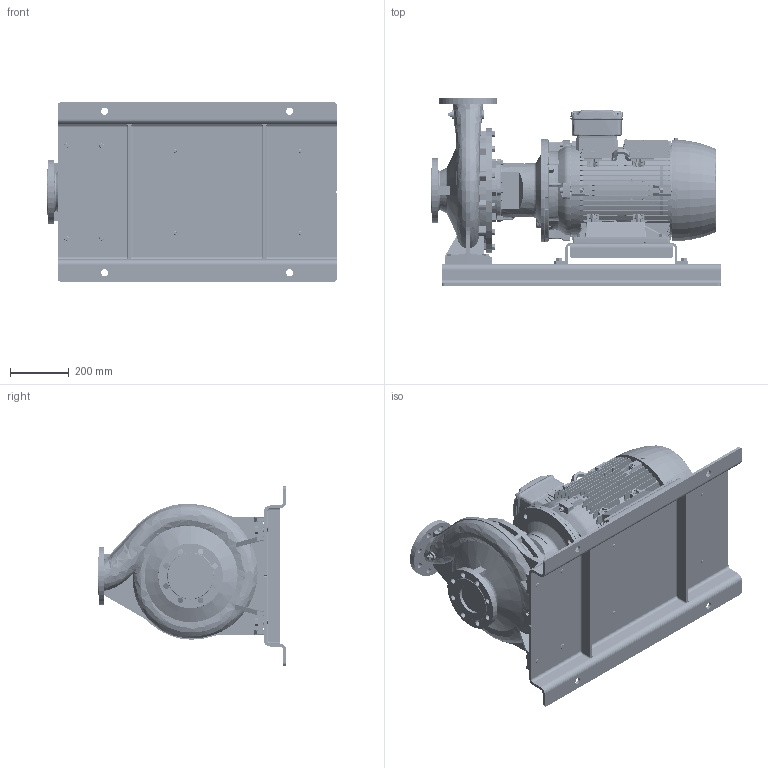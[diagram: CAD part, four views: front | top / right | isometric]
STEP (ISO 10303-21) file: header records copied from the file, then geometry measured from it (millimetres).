
FILE_DESCRIPTION (( 'STEP AP214' ), '1' );
FILE_NAME ('GSD4 80-315_18.5 & 22_(180ML)_W21_BP.STEP', '2026-05-08T06:39:13', ( '' ), ( '' ), 'SwSTEP 2.0', 'SolidWorks 2024', '' );
FILE_SCHEMA (( 'AUTOMOTIVE_DESIGN' ));
Length unit declared in the file: millimetre
Products named in the file (13): N7S3 GSDA-735 F1-1832948-00; GSD4 80-315_18.5 & 22_(180ML)_W21_BP; Parametric bolt_SFT-A297B; Parametric bolt and washer_SFT-A305B; Parametric bolt_SFT-A353B; 80-315-180M_L_ﾃﾞﾌｫﾙﾄ; CGS11-5263; Parametric Flat Washer_M12; Parametric bolt and washer_SFT-A297B; Parametric Flat Washer_M16; Parametric bolt_SFT-A305B; Parametric bolt and washer_SFT-A353B; 180M_L ALIE3_W21T_B35
Assembly tree (22 placements, depth 3):
  GSD4 80-315_18.5 & 22_(180ML)_W21_BP
    80-315-180M_L_ﾃﾞﾌｫﾙﾄ
    N7S3 GSDA-735 F1-1832948-00
    CGS11-5263
    Parametric bolt and washer_SFT-A353B  x4
      Parametric bolt_SFT-A353B
      Parametric Flat Washer_M16
    Parametric bolt and washer_SFT-A297B  x4
      Parametric bolt_SFT-A297B
      Parametric Flat Washer_M12
    Parametric bolt and washer_SFT-A305B  x4
      Parametric bolt_SFT-A305B
      Parametric Flat Washer_M12
    180M_L ALIE3_W21T_B35
Bounding box: 985 x 640 x 610 mm (x, y, z)
Volume: 79898800.2 mm3; surface area: 5611965.9 mm2
Topology: 60 solids, 60 shells, 6893 faces, 17882 edges, 11563 vertices
Faces by surface type: plane 4019, cylinder 1421, cone 678, bspline 464, torus 295, sphere 16
Entity records: 244122 total; most frequent: CARTESIAN_POINT 95269, ORIENTED_EDGE 32756, DIRECTION 27684, EDGE_CURVE 16378, VERTEX_POINT 10594, LINE 10158, VECTOR 10158, AXIS2_PLACEMENT_3D 8763
